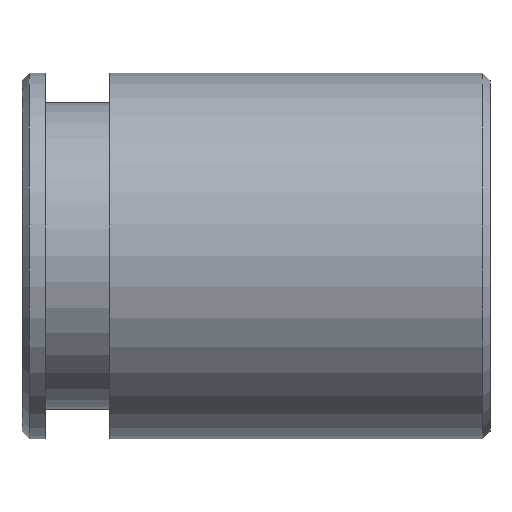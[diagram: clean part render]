
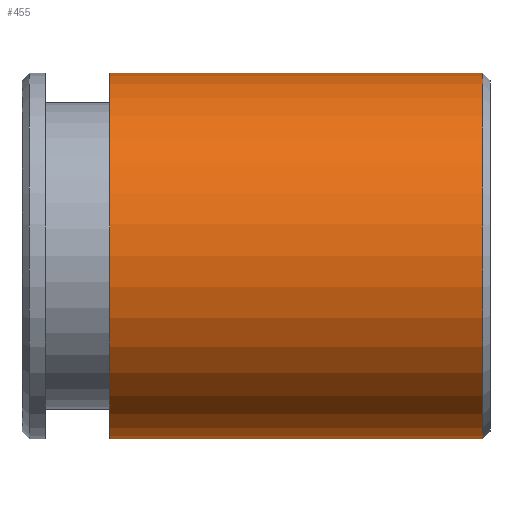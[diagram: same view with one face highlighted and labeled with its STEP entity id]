
A CAD part, top view. The second image highlights one B-rep face of the part: STEP entity #455.
In plain terms, the highlighted cylindrical face has radius 12.5 mm (diameter 25 mm), a partial arc.
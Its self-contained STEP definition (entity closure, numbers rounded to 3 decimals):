
#95=CARTESIAN_POINT('',(31.5,0.,0.));
#96=DIRECTION('',(1.,0.,0.));
#97=DIRECTION('',(0.,1.,0.));
#98=AXIS2_PLACEMENT_3D('',#95,#96,#97);
#103=DIRECTION('',(-1.,0.,0.));
#104=VECTOR('',#103,25.5);
#105=CARTESIAN_POINT('',(31.5,12.5,0.));
#106=LINE('',#105,#104);
#110=DIRECTION('',(-1.,0.,0.));
#111=VECTOR('',#110,25.5);
#112=CARTESIAN_POINT('',(31.5,-12.5,0.));
#113=LINE('',#112,#111);
#125=CARTESIAN_POINT('',(6.,0.,0.));
#126=DIRECTION('',(1.,0.,0.));
#127=DIRECTION('',(0.,1.,0.));
#128=AXIS2_PLACEMENT_3D('',#125,#126,#127);
#314=CARTESIAN_POINT('',(31.5,12.5,0.));
#316=VERTEX_POINT('',#314);
#317=CARTESIAN_POINT('',(6.,12.5,0.));
#318=VERTEX_POINT('',#317);
#338=CARTESIAN_POINT('',(31.5,-12.5,0.));
#340=VERTEX_POINT('',#338);
#341=CARTESIAN_POINT('',(6.,-12.5,0.));
#342=VERTEX_POINT('',#341);
#441=CARTESIAN_POINT('',(-1.6,0.,0.));
#442=DIRECTION('',(1.,0.,0.));
#443=DIRECTION('',(0.,-1.,0.));
#444=AXIS2_PLACEMENT_3D('',#441,#442,#443);
#445=CYLINDRICAL_SURFACE('',#444,12.5);
#447=ORIENTED_EDGE('',*,*,#446,.F.);
#448=ORIENTED_EDGE('',*,*,#436,.T.);
#450=ORIENTED_EDGE('',*,*,#449,.T.);
#452=ORIENTED_EDGE('',*,*,#451,.F.);
#453=EDGE_LOOP('',(#447,#448,#450,#452));
#454=FACE_OUTER_BOUND('',#453,.F.);
#99=CIRCLE('',#98,12.5);
#129=CIRCLE('',#128,12.5);
#436=EDGE_CURVE('',#316,#340,#99,.T.);
#446=EDGE_CURVE('',#316,#318,#106,.T.);
#449=EDGE_CURVE('',#340,#342,#113,.T.);
#451=EDGE_CURVE('',#318,#342,#129,.T.);
#455=ADVANCED_FACE('',(#454),#445,.T.);
